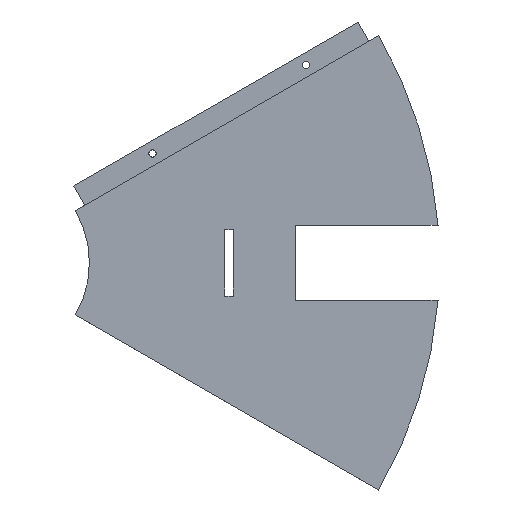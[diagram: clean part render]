
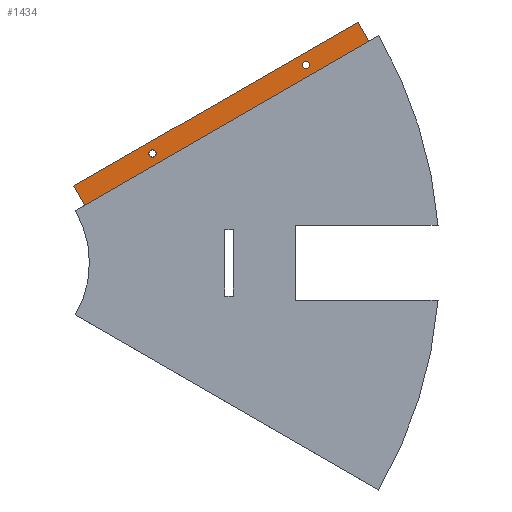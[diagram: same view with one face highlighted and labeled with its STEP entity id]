
A CAD part, top view. The second image highlights one B-rep face of the part: STEP entity #1434.
In plain terms, the highlighted planar face has unit normal (0, 0, 1).
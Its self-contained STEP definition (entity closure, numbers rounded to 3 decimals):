
#285 = PLANE('',#286);
#286 = AXIS2_PLACEMENT_3D('',#287,#288,#289);
#287 = CARTESIAN_POINT('',(246.,142.028,0.));
#288 = DIRECTION('',(0.5,-0.866,0.));
#289 = DIRECTION('',(-0.866,-0.5,0.));
#313 = PLANE('',#314);
#314 = AXIS2_PLACEMENT_3D('',#315,#316,#317);
#315 = CARTESIAN_POINT('',(173.205,100.,0.));
#316 = DIRECTION('',(0.866,0.5,0.));
#317 = DIRECTION('',(0.,0.,1.));
#341 = PLANE('',#342);
#342 = AXIS2_PLACEMENT_3D('',#343,#344,#345);
#343 = CARTESIAN_POINT('',(40.033,34.66,0.));
#344 = DIRECTION('',(-0.5,0.866,0.));
#345 = DIRECTION('',(0.,0.,1.));
#369 = PLANE('',#370);
#370 = AXIS2_PLACEMENT_3D('',#371,#372,#373);
#371 = CARTESIAN_POINT('',(45.033,26.,0.));
#372 = DIRECTION('',(0.866,0.5,0.));
#373 = DIRECTION('',(0.,0.,1.));
#560 = CYLINDRICAL_SURFACE('',#561,1.65);
#561 = AXIS2_PLACEMENT_3D('',#562,#563,#564);
#562 = CARTESIAN_POINT('',(75.442,49.33,-1.));
#563 = DIRECTION('',(-0.,-0.,-1.));
#564 = DIRECTION('',(1.,0.,0.));
#595 = CYLINDRICAL_SURFACE('',#596,1.65);
#596 = AXIS2_PLACEMENT_3D('',#597,#598,#599);
#597 = CARTESIAN_POINT('',(144.724,89.33,-1.));
#598 = DIRECTION('',(-0.,-0.,-1.));
#599 = DIRECTION('',(1.,0.,0.));
#964 = VERTEX_POINT('',#965);
#965 = CARTESIAN_POINT('',(45.033,26.,3.));
#986 = EDGE_CURVE('',#964,#987,#989,.T.);
#987 = VERTEX_POINT('',#988);
#988 = CARTESIAN_POINT('',(173.205,100.,3.));
#989 = SURFACE_CURVE('',#990,(#994,#1001),.PCURVE_S1.);
#990 = LINE('',#991,#992);
#991 = CARTESIAN_POINT('',(45.033,26.,3.));
#992 = VECTOR('',#993,1.);
#993 = DIRECTION('',(0.866,0.5,0.));
#994 = PCURVE('',#285,#995);
#995 = DEFINITIONAL_REPRESENTATION('',(#996),#1000);
#996 = LINE('',#997,#998);
#997 = CARTESIAN_POINT('',(232.056,-3.));
#998 = VECTOR('',#999,1.);
#999 = DIRECTION('',(-1.,0.));
#1000 = ( GEOMETRIC_REPRESENTATION_CONTEXT(2) 
PARAMETRIC_REPRESENTATION_CONTEXT() REPRESENTATION_CONTEXT('2D SPACE',''
  ) );
#1001 = PCURVE('',#1002,#1007);
#1002 = PLANE('',#1003);
#1003 = AXIS2_PLACEMENT_3D('',#1004,#1005,#1006);
#1004 = CARTESIAN_POINT('',(45.033,26.,3.));
#1005 = DIRECTION('',(0.,0.,1.));
#1006 = DIRECTION('',(0.866,0.5,0.));
#1007 = DEFINITIONAL_REPRESENTATION('',(#1008),#1012);
#1008 = LINE('',#1009,#1010);
#1009 = CARTESIAN_POINT('',(0.,0.));
#1010 = VECTOR('',#1011,1.);
#1011 = DIRECTION('',(1.,0.));
#1012 = ( GEOMETRIC_REPRESENTATION_CONTEXT(2) 
PARAMETRIC_REPRESENTATION_CONTEXT() REPRESENTATION_CONTEXT('2D SPACE',''
  ) );
#1041 = VERTEX_POINT('',#1042);
#1042 = CARTESIAN_POINT('',(40.033,34.66,3.));
#1063 = EDGE_CURVE('',#964,#1041,#1064,.T.);
#1064 = SURFACE_CURVE('',#1065,(#1069,#1076),.PCURVE_S1.);
#1065 = LINE('',#1066,#1067);
#1066 = CARTESIAN_POINT('',(45.033,26.,3.));
#1067 = VECTOR('',#1068,1.);
#1068 = DIRECTION('',(-0.5,0.866,0.));
#1069 = PCURVE('',#369,#1070);
#1070 = DEFINITIONAL_REPRESENTATION('',(#1071),#1075);
#1071 = LINE('',#1072,#1073);
#1072 = CARTESIAN_POINT('',(3.,0.));
#1073 = VECTOR('',#1074,1.);
#1074 = DIRECTION('',(0.,-1.));
#1075 = ( GEOMETRIC_REPRESENTATION_CONTEXT(2) 
PARAMETRIC_REPRESENTATION_CONTEXT() REPRESENTATION_CONTEXT('2D SPACE',''
  ) );
#1076 = PCURVE('',#1002,#1077);
#1077 = DEFINITIONAL_REPRESENTATION('',(#1078),#1082);
#1078 = LINE('',#1079,#1080);
#1079 = CARTESIAN_POINT('',(0.,0.));
#1080 = VECTOR('',#1081,1.);
#1081 = DIRECTION('',(0.,1.));
#1082 = ( GEOMETRIC_REPRESENTATION_CONTEXT(2) 
PARAMETRIC_REPRESENTATION_CONTEXT() REPRESENTATION_CONTEXT('2D SPACE',''
  ) );
#1089 = EDGE_CURVE('',#1041,#1090,#1092,.T.);
#1090 = VERTEX_POINT('',#1091);
#1091 = CARTESIAN_POINT('',(168.205,108.66,3.));
#1092 = SURFACE_CURVE('',#1093,(#1097,#1104),.PCURVE_S1.);
#1093 = LINE('',#1094,#1095);
#1094 = CARTESIAN_POINT('',(40.033,34.66,3.));
#1095 = VECTOR('',#1096,1.);
#1096 = DIRECTION('',(0.866,0.5,0.));
#1097 = PCURVE('',#341,#1098);
#1098 = DEFINITIONAL_REPRESENTATION('',(#1099),#1103);
#1099 = LINE('',#1100,#1101);
#1100 = CARTESIAN_POINT('',(3.,0.));
#1101 = VECTOR('',#1102,1.);
#1102 = DIRECTION('',(0.,1.));
#1103 = ( GEOMETRIC_REPRESENTATION_CONTEXT(2) 
PARAMETRIC_REPRESENTATION_CONTEXT() REPRESENTATION_CONTEXT('2D SPACE',''
  ) );
#1104 = PCURVE('',#1002,#1105);
#1105 = DEFINITIONAL_REPRESENTATION('',(#1106),#1110);
#1106 = LINE('',#1107,#1108);
#1107 = CARTESIAN_POINT('',(0.,10.));
#1108 = VECTOR('',#1109,1.);
#1109 = DIRECTION('',(1.,0.));
#1110 = ( GEOMETRIC_REPRESENTATION_CONTEXT(2) 
PARAMETRIC_REPRESENTATION_CONTEXT() REPRESENTATION_CONTEXT('2D SPACE',''
  ) );
#1139 = EDGE_CURVE('',#987,#1090,#1140,.T.);
#1140 = SURFACE_CURVE('',#1141,(#1145,#1152),.PCURVE_S1.);
#1141 = LINE('',#1142,#1143);
#1142 = CARTESIAN_POINT('',(173.205,100.,3.));
#1143 = VECTOR('',#1144,1.);
#1144 = DIRECTION('',(-0.5,0.866,0.));
#1145 = PCURVE('',#313,#1146);
#1146 = DEFINITIONAL_REPRESENTATION('',(#1147),#1151);
#1147 = LINE('',#1148,#1149);
#1148 = CARTESIAN_POINT('',(3.,0.));
#1149 = VECTOR('',#1150,1.);
#1150 = DIRECTION('',(0.,-1.));
#1151 = ( GEOMETRIC_REPRESENTATION_CONTEXT(2) 
PARAMETRIC_REPRESENTATION_CONTEXT() REPRESENTATION_CONTEXT('2D SPACE',''
  ) );
#1152 = PCURVE('',#1002,#1153);
#1153 = DEFINITIONAL_REPRESENTATION('',(#1154),#1158);
#1154 = LINE('',#1155,#1156);
#1155 = CARTESIAN_POINT('',(148.,0.));
#1156 = VECTOR('',#1157,1.);
#1157 = DIRECTION('',(0.,1.));
#1158 = ( GEOMETRIC_REPRESENTATION_CONTEXT(2) 
PARAMETRIC_REPRESENTATION_CONTEXT() REPRESENTATION_CONTEXT('2D SPACE',''
  ) );
#1332 = VERTEX_POINT('',#1333);
#1333 = CARTESIAN_POINT('',(77.092,49.33,3.));
#1354 = EDGE_CURVE('',#1332,#1332,#1355,.T.);
#1355 = SURFACE_CURVE('',#1356,(#1361,#1368),.PCURVE_S1.);
#1356 = CIRCLE('',#1357,1.65);
#1357 = AXIS2_PLACEMENT_3D('',#1358,#1359,#1360);
#1358 = CARTESIAN_POINT('',(75.442,49.33,3.));
#1359 = DIRECTION('',(0.,0.,-1.));
#1360 = DIRECTION('',(1.,0.,0.));
#1361 = PCURVE('',#560,#1362);
#1362 = DEFINITIONAL_REPRESENTATION('',(#1363),#1367);
#1363 = LINE('',#1364,#1365);
#1364 = CARTESIAN_POINT('',(-6.283,-4.));
#1365 = VECTOR('',#1366,1.);
#1366 = DIRECTION('',(1.,-0.));
#1367 = ( GEOMETRIC_REPRESENTATION_CONTEXT(2) 
PARAMETRIC_REPRESENTATION_CONTEXT() REPRESENTATION_CONTEXT('2D SPACE',''
  ) );
#1368 = PCURVE('',#1002,#1369);
#1369 = DEFINITIONAL_REPRESENTATION('',(#1370),#1378);
#1370 = ( BOUNDED_CURVE() B_SPLINE_CURVE(2,(#1371,#1372,#1373,#1374,
#1375,#1376,#1377),.UNSPECIFIED.,.T.,.F.) B_SPLINE_CURVE_WITH_KNOTS((1,2
    ,2,2,2,1),(-2.094,0.,2.094,4.189,
6.283,8.378),.UNSPECIFIED.) CURVE() 
GEOMETRIC_REPRESENTATION_ITEM() RATIONAL_B_SPLINE_CURVE((1.,0.5,1.,0.5,
1.,0.5,1.)) REPRESENTATION_ITEM('') );
#1371 = CARTESIAN_POINT('',(39.429,4.175));
#1372 = CARTESIAN_POINT('',(38.,1.7));
#1373 = CARTESIAN_POINT('',(36.571,4.175));
#1374 = CARTESIAN_POINT('',(35.142,6.65));
#1375 = CARTESIAN_POINT('',(38.,6.65));
#1376 = CARTESIAN_POINT('',(40.858,6.65));
#1377 = CARTESIAN_POINT('',(39.429,4.175));
#1378 = ( GEOMETRIC_REPRESENTATION_CONTEXT(2) 
PARAMETRIC_REPRESENTATION_CONTEXT() REPRESENTATION_CONTEXT('2D SPACE',''
  ) );
#1386 = VERTEX_POINT('',#1387);
#1387 = CARTESIAN_POINT('',(146.374,89.33,3.));
#1408 = EDGE_CURVE('',#1386,#1386,#1409,.T.);
#1409 = SURFACE_CURVE('',#1410,(#1415,#1422),.PCURVE_S1.);
#1410 = CIRCLE('',#1411,1.65);
#1411 = AXIS2_PLACEMENT_3D('',#1412,#1413,#1414);
#1412 = CARTESIAN_POINT('',(144.724,89.33,3.));
#1413 = DIRECTION('',(0.,0.,-1.));
#1414 = DIRECTION('',(1.,0.,0.));
#1415 = PCURVE('',#595,#1416);
#1416 = DEFINITIONAL_REPRESENTATION('',(#1417),#1421);
#1417 = LINE('',#1418,#1419);
#1418 = CARTESIAN_POINT('',(-6.283,-4.));
#1419 = VECTOR('',#1420,1.);
#1420 = DIRECTION('',(1.,-0.));
#1421 = ( GEOMETRIC_REPRESENTATION_CONTEXT(2) 
PARAMETRIC_REPRESENTATION_CONTEXT() REPRESENTATION_CONTEXT('2D SPACE',''
  ) );
#1422 = PCURVE('',#1002,#1423);
#1423 = DEFINITIONAL_REPRESENTATION('',(#1424),#1432);
#1424 = ( BOUNDED_CURVE() B_SPLINE_CURVE(2,(#1425,#1426,#1427,#1428,
#1429,#1430,#1431),.UNSPECIFIED.,.T.,.F.) B_SPLINE_CURVE_WITH_KNOTS((1,2
    ,2,2,2,1),(-2.094,0.,2.094,4.189,
6.283,8.378),.UNSPECIFIED.) CURVE() 
GEOMETRIC_REPRESENTATION_ITEM() RATIONAL_B_SPLINE_CURVE((1.,0.5,1.,0.5,
1.,0.5,1.)) REPRESENTATION_ITEM('') );
#1425 = CARTESIAN_POINT('',(119.429,4.175));
#1426 = CARTESIAN_POINT('',(118.,1.7));
#1427 = CARTESIAN_POINT('',(116.571,4.175));
#1428 = CARTESIAN_POINT('',(115.142,6.65));
#1429 = CARTESIAN_POINT('',(118.,6.65));
#1430 = CARTESIAN_POINT('',(120.858,6.65));
#1431 = CARTESIAN_POINT('',(119.429,4.175));
#1432 = ( GEOMETRIC_REPRESENTATION_CONTEXT(2) 
PARAMETRIC_REPRESENTATION_CONTEXT() REPRESENTATION_CONTEXT('2D SPACE',''
  ) );
#1434 = ADVANCED_FACE('',(#1435,#1441,#1444),#1002,.T.);
#1435 = FACE_BOUND('',#1436,.T.);
#1436 = EDGE_LOOP('',(#1437,#1438,#1439,#1440));
#1437 = ORIENTED_EDGE('',*,*,#1063,.F.);
#1438 = ORIENTED_EDGE('',*,*,#986,.T.);
#1439 = ORIENTED_EDGE('',*,*,#1139,.T.);
#1440 = ORIENTED_EDGE('',*,*,#1089,.F.);
#1441 = FACE_BOUND('',#1442,.T.);
#1442 = EDGE_LOOP('',(#1443));
#1443 = ORIENTED_EDGE('',*,*,#1408,.T.);
#1444 = FACE_BOUND('',#1445,.T.);
#1445 = EDGE_LOOP('',(#1446));
#1446 = ORIENTED_EDGE('',*,*,#1354,.T.);
